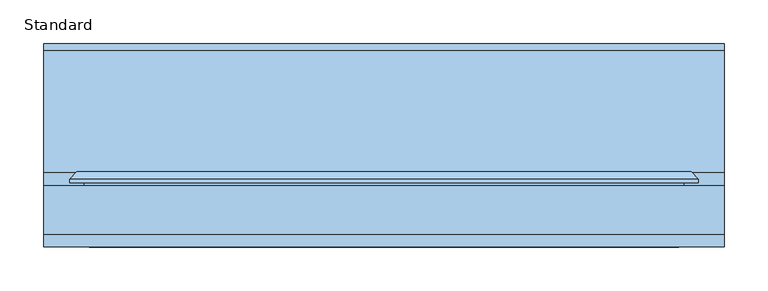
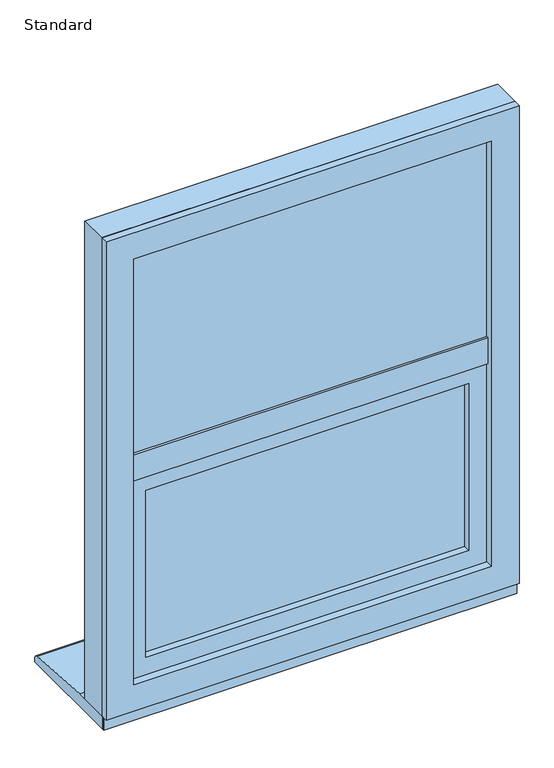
"""IFC4 building model written with IfcOpenShell, lengths in millimetres: window geometry, SMARTS_Alitherm600 : Standard."""

from ifc_helpers import new_model, si_unit, point, frame, frame_2d, origin, place, context, project, spatial, polyline, circle_curve, trimmed, segment, composite_curve, outline, extrude, faceted_brep, source, transform, mapped, element, save


def standard_b5395198(model_context):
    return source(origin(), model_context, "Body", "SolidModel", [
        extrude(outline(polyline([(354.1020883, 102.8298432), (354.1020883, 47.2458572), (-354.1020883, 47.2458572), (-354.1020883, 102.8298432), (354.1020883, 102.8298432)])), frame((0.0, 0.0, 1103.1), z_axis=(0.0, 0.0, 1.0), x_axis=(1.0, 0.0, 0.0)), (0.0, 0.0, 1.0), 18.8),
        extrude(outline(polyline([(337.6, 47.2458572), (337.6, 43.2798432), (-337.6, 43.2798432), (-337.6, 47.2458572), (337.6, 47.2458572)])), frame((0.0, 0.0, 1086.5979117), z_axis=(0.0, 0.0, 1.0), x_axis=(1.0, 0.0, 0.0)), (0.0, 0.0, 1.0), 51.8041766),
        extrude(outline(polyline([(1065.5, -316.6), (708.4, -316.6), (708.4, 316.6), (1065.5, 316.6), (1065.5, -316.6)]), holes=[polyline([(1055.5, 306.6), (718.4, 306.6), (718.4, -306.6), (1055.5, -306.6), (1055.5, 306.6)])]), frame((0.0, 72.3211351, 0.0), z_axis=(0.0, 1.0, 0.0), x_axis=(0.0, 0.0, 1.0)), (0.0, 0.0, 1.0), 16.0),
        extrude(outline(polyline([(-316.6, 92.3211351), (316.6, 92.3211351), (316.6, 88.3211351), (-316.6, 88.3211351), (-316.6, 92.3211351)])), frame((0.0, 0.0, 708.4), z_axis=(0.0, 0.0, 1.0), x_axis=(1.0, 0.0, 0.0)), (0.0, 0.0, 1.0), 357.1),
        extrude(outline(polyline([(-316.6, 72.3211351), (316.6, 72.3211351), (316.6, 68.3211351), (-316.6, 68.3211351), (-316.6, 72.3211351)])), frame((0.0, 0.0, 708.4), z_axis=(0.0, 0.0, 1.0), x_axis=(1.0, 0.0, 0.0)), (0.0, 0.0, 1.0), 357.1),
        faceted_brep([(316.9221147, 118.8818325, 1065.8221147), (304.740024, 97.7818325, 1053.640024), (-304.740024, 97.7818325, 1053.640024), (-316.9221147, 118.8818325, 1065.8221147), (321.6060494, 97.7818325, 1070.5060494), (321.6060494, 118.8818325, 1070.5060494), (-321.6060494, 118.8818325, 1070.5060494), (-321.6060494, 97.7818325, 1070.5060494), (-304.740024, 97.7818325, 720.259976), (-316.9221147, 118.8818325, 708.0778853), (-321.6060494, 118.8818325, 703.3939506), (-321.6060494, 97.7818325, 703.3939506), (304.740024, 97.7818325, 720.259976), (316.9221147, 118.8818325, 708.0778853), (321.6060494, 118.8818325, 703.3939506), (321.6060494, 97.7818325, 703.3939506)], [[[0, 1, 2, 3]], [[4, 5, 6, 7]], [[3, 2, 8, 9]], [[7, 6, 10, 11]], [[9, 8, 12, 13]], [[11, 10, 14, 15]], [[13, 12, 1, 0]], [[5, 14, 10, 6], [3, 9, 13, 0]], [[15, 14, 5, 4]], [[7, 11, 15, 4], [1, 12, 8, 2]]]),
        extrude(outline(polyline([(681.552908, -343.447092), (681.552908, 343.447092), (1092.347092, 343.447092), (1092.347092, -343.447092), (681.552908, -343.447092)]), holes=[polyline([(1054.0, -305.1), (1054.0, 305.1), (719.9, 305.1), (719.9, -305.1), (1054.0, -305.1)])]), frame((0.0, 50.2798432, 0.0), z_axis=(0.0, 1.0, 0.0), x_axis=(0.0, 0.0, 1.0)), (0.0, 0.0, 1.0), 13.0853156),
        faceted_brep([(-321.6060494, 118.8818325, 1070.5060494), (-321.6060494, 63.3651588, 1070.5060494), (-321.6060494, 63.3651588, 703.3939506), (-321.6060494, 118.8818325, 703.3939506), (321.6060494, 63.3651588, 703.3939506), (321.6060494, 118.8818325, 703.3939506), (321.6060494, 63.3651588, 1070.5060494), (321.6060494, 118.8818325, 1070.5060494), (-360.3358988, 106.2818325, 1109.2358988), (-360.3358988, 110.3519831, 1109.2358988), (-360.3358988, 110.3519831, 664.6641012), (-360.3358988, 106.2818325, 664.6641012), (360.3358988, 110.3519831, 664.6641012), (360.3358988, 106.2818325, 664.6641012), (360.3358988, 110.3519831, 1109.2358988), (360.3358988, 106.2818325, 1109.2358988), (-343.7467657, 106.2818325, 1092.6467657), (343.7467657, 106.2818325, 1092.6467657), (343.7467657, 106.2818325, 681.2532343), (-343.7467657, 106.2818325, 681.2532343), (-351.8060494, 118.8818325, 1100.7060494), (351.8060494, 118.8818325, 1100.7060494), (351.8060494, 118.8818325, 673.1939506), (-351.8060494, 118.8818325, 673.1939506), (-343.7467657, 63.3651588, 1092.6467657), (-343.7467657, 63.3651588, 681.2532343), (343.7467657, 63.3651588, 681.2532343), (343.7467657, 63.3651588, 1092.6467657)], [[[0, 1, 2, 3]], [[3, 2, 4, 5]], [[5, 4, 6, 7]], [[7, 6, 1, 0]], [[8, 9, 10, 11]], [[11, 10, 12, 13]], [[13, 12, 14, 15]], [[11, 13, 15, 8], [16, 17, 18, 19]], [[15, 14, 9, 8]], [[20, 21, 22, 23], [3, 5, 7, 0]], [[24, 16, 19, 25]], [[25, 19, 18, 26]], [[26, 18, 17, 27]], [[25, 26, 27, 24], [1, 6, 4, 2]], [[27, 17, 16, 24]], [[9, 20, 23, 10]], [[10, 23, 22, 12]], [[12, 22, 21, 14]], [[14, 21, 20, 9]]]),
        extrude(outline(polyline([(1590.0, 390.0), (1590.0, -390.0), (635.0, -390.0), (635.0, 390.0), (1590.0, 390.0)]), holes=[polyline([(670.85, 354.15), (670.85, -354.15), (1554.15, -354.15), (1554.15, 354.15), (670.85, 354.15)])]), frame((0.0, 47.2798427, 0.0), z_axis=(0.0, 1.0, 0.0), x_axis=(0.0, 0.0, 1.0)), (0.0, 0.0, 1.0), 55.5500006),
        extrude(outline(polyline([(1590.0, 390.0), (1590.0, -390.0), (635.0, -390.0), (635.0, 390.0), (1590.0, 390.0)]), holes=[polyline([(687.35, 337.65), (687.35, -337.65), (1537.65, -337.65), (1537.65, 337.65), (687.35, 337.65)])]), frame((0.0, 32.8298432, 0.0), z_axis=(0.0, 1.0, 0.0), x_axis=(0.0, 0.0, 1.0)), (0.0, 0.0, 1.0), 14.4499994),
        extrude(outline(polyline([(-352.6, 77.7798432), (352.6, 77.7798432), (352.6, 73.7798432), (-352.6, 73.7798432), (-352.6, 77.7798432)])), frame((0.0, 0.0, 1123.5), z_axis=(0.0, 0.0, 1.0), x_axis=(1.0, 0.0, 0.0)), (0.0, 0.0, 1.0), 429.1),
        extrude(outline(polyline([(-352.6, 57.7798432), (352.6, 57.7798432), (352.6, 53.7798432), (-352.6, 53.7798432), (-352.6, 57.7798432)])), frame((0.0, 0.0, 1123.5), z_axis=(0.0, 0.0, 1.0), x_axis=(1.0, 0.0, 0.0)), (0.0, 0.0, 1.0), 429.1),
        extrude(outline(polyline([(1552.6, -352.6), (1123.5, -352.6), (1123.5, 352.6), (1552.6, 352.6), (1552.6, -352.6)]), holes=[polyline([(1542.6, 342.6), (1133.5, 342.6), (1133.5, -342.6), (1542.6, -342.6), (1542.6, 342.6)])]), frame((0.0, 57.7798432, 0.0), z_axis=(0.0, 1.0, 0.0), x_axis=(0.0, 0.0, 1.0)), (0.0, 0.0, 1.0), 16.0),
        faceted_brep([(-349.4160653, 102.7798432, 1549.4160653), (-337.2339746, 81.6798432, 1537.2339746), (-337.2339746, 81.6798432, 1138.8660254), (-349.4160653, 102.7798432, 1126.6839347), (337.2339746, 81.6798432, 1138.8660254), (349.4160653, 102.7798432, 1126.6839347), (337.2339746, 81.6798432, 1537.2339746), (349.4160653, 102.7798432, 1549.4160653), (354.1, 81.6798432, 1554.1), (354.1, 102.7798432, 1554.1), (-354.1, 102.7798432, 1554.1), (-354.1, 81.6798432, 1554.1), (-354.1, 102.7798432, 1122.0), (-354.1, 81.6798432, 1122.0), (354.1, 102.7798432, 1122.0), (354.1, 81.6798432, 1122.0)], [[[0, 1, 2, 3]], [[3, 2, 4, 5]], [[5, 4, 6, 7]], [[7, 6, 1, 0]], [[8, 9, 10, 11]], [[11, 10, 12, 13]], [[13, 12, 14, 15]], [[9, 14, 12, 10], [0, 3, 5, 7]], [[15, 14, 9, 8]], [[11, 13, 15, 8], [6, 4, 2, 1]]]),
        extrude(outline(polyline([(390.0, 43.2798432), (390.0, 40.7798432), (-390.0, 40.7798432), (-390.0, 43.2798432), (390.0, 43.2798432)])), frame((0.0, 0.0, 610.0), z_axis=(0.0, 0.0, 1.0), x_axis=(1.0, 0.0, 0.0)), (0.0, 0.0, 1.0), 31.0),
        extrude(outline(composite_curve([segment(polyline([(265.7798432, 610.0), (43.2798432, 610.0), (43.2798432, 635.0), (118.7798432, 635.0), (258.4770891, 625.9276664)]), True, "CONTINUOUS"), segment(trimmed(circle_curve(frame_2d((257.7798432, 617.9581088)), 8.0), [point((258.4770891, 625.9276664))], [point((265.7798432, 617.9581088))], False, "CARTESIAN"), True, "CONTINUOUS"), segment(polyline([(265.7798432, 617.9581088), (265.7798432, 610.0)]), True, "CONTINUOUS")], self_intersect=False)), frame((-390.0, 0.0, 0.0), z_axis=(1.0, 0.0, 0.0), x_axis=(0.0, 1.0, 0.0)), (0.0, 0.0, 1.0), 780.0),
    ])


if __name__ == "__main__":
    model = new_model("IFC4")
    model_context = context("Model", 3, world=origin())
    ifc_project = project(units=[si_unit("LENGTHUNIT", "METRE", prefix="MILLI")], contexts=[model_context])
    site = spatial("IfcSite", under=ifc_project)
    building = spatial("IfcBuilding", under=site)
    placement = place(None, origin())
    standard_shape = standard_b5395198(model_context)
    element("IfcWindow", 1, ObjectType="SMARTS_Alitherm600 : Standard", at=placement, inside=building, context=model_context, shape_type="MappedRepresentation", body=[
        mapped(standard_shape, transform((0.0, 0.0, 0.0), x_axis=(1.0, 0.0, 0.0), y_axis=(0.0, 1.0, 0.0), z_axis=(0.0, 0.0, 1.0))),
    ])
    save(model, "model.ifc")
